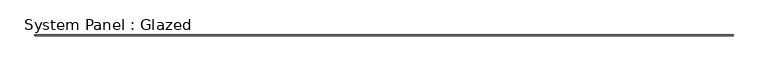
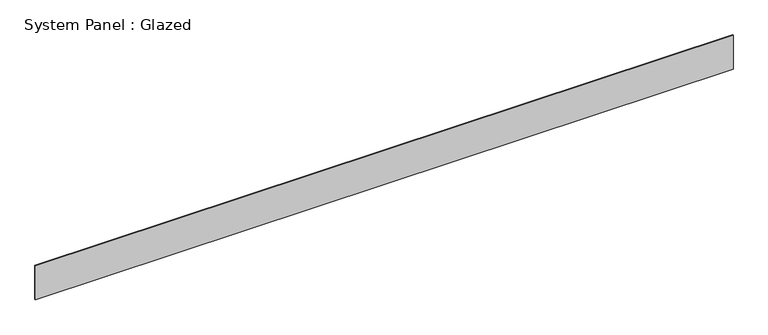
"""IFC4 building model written with IfcOpenShell, lengths in millimetres: plate geometry, System Panel : Glazed."""

from ifc_helpers import new_model, si_unit, origin, origin_with_axes, place, context, project, spatial, polyline, outline, extrude, source, transform, mapped, element, save


def system_panel_glazed_4365cd2d(model_context):
    return source(origin(), model_context, "Body", "SweptSolid", [
        extrude(outline(polyline([(9750.0, 24.5), (-9750.0, 24.5), (-9750.0, 49.5), (9750.0, 49.5), (9750.0, 24.5)])), origin_with_axes(), (0.0, 0.0, 1.0), 1000.0),
    ])


if __name__ == "__main__":
    model = new_model("IFC4")
    model_context = context("Model", 3, world=origin())
    ifc_project = project(units=[si_unit("LENGTHUNIT", "METRE", prefix="MILLI")], contexts=[model_context])
    site = spatial("IfcSite", under=ifc_project)
    building = spatial("IfcBuilding", under=site)
    placement = place(None, origin())
    system_panel_glazed_shape = system_panel_glazed_4365cd2d(model_context)
    element("IfcPlate", 1, ObjectType="System Panel : Glazed", at=placement, inside=building, context=model_context, shape_type="MappedRepresentation", body=[
        mapped(system_panel_glazed_shape, transform((0.0, 0.0, 0.0), x_axis=(1.0, 0.0, 0.0), y_axis=(0.0, 1.0, 0.0), z_axis=(0.0, 0.0, 1.0))),
    ])
    save(model, "model.ifc")
